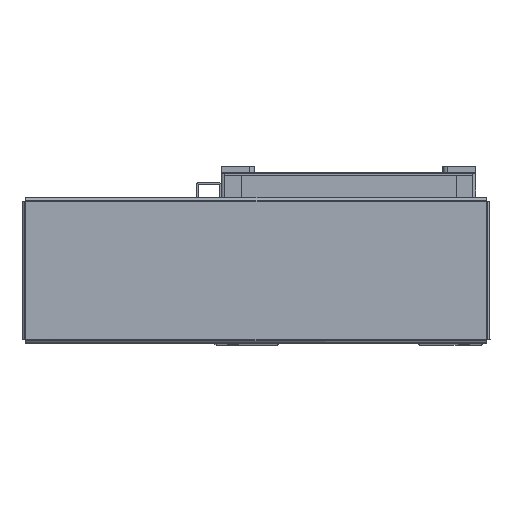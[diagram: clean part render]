
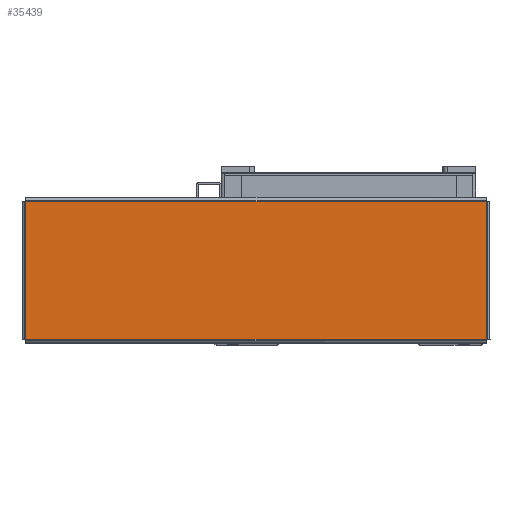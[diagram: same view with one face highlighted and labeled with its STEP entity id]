
A CAD part, top view. The second image highlights one B-rep face of the part: STEP entity #35439.
In plain terms, the highlighted planar face has unit normal (0, 0, 1) as drawn and (0, -1, 0) by its records, which use the part's own axes.
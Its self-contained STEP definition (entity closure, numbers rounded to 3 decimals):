
#514 = FACE_OUTER_BOUND ( 'NONE', #7722, .T. ) ;
#2576 = CARTESIAN_POINT ( 'NONE',  ( 139.263, -1.5, 41.763 ) ) ;
#2617 = CARTESIAN_POINT ( 'NONE',  ( -139.263, -1.5, -41.763 ) ) ;
#2666 = CARTESIAN_POINT ( 'NONE',  ( 139.263, -1.5, -41.763 ) ) ;
#2672 = CARTESIAN_POINT ( 'NONE',  ( -139.263, -1.5, 41.763 ) ) ;
#7722 = EDGE_LOOP ( 'NONE', ( #33678, #33743, #33638, #33655 ) ) ;
#13066 = LINE ( 'NONE', #14120, #13126 ) ;
#13084 = VECTOR ( 'NONE', #14262, 1000. ) ;
#13126 = VECTOR ( 'NONE', #14099, 1000. ) ;
#13127 = LINE ( 'NONE', #14252, #13084 ) ;
#13134 = VECTOR ( 'NONE', #14248, 1000. ) ;
#13141 = LINE ( 'NONE', #14245, #13134 ) ;
#13157 = LINE ( 'NONE', #14260, #13161 ) ;
#13161 = VECTOR ( 'NONE', #14265, 1000. ) ;
#14099 = DIRECTION ( 'NONE',  ( 1., 0., 0. ) ) ;
#14120 = CARTESIAN_POINT ( 'NONE',  ( -139.293, -1.5, -41.763 ) ) ;
#14245 = CARTESIAN_POINT ( 'NONE',  ( 139.293, -1.5, 41.763 ) ) ;
#14248 = DIRECTION ( 'NONE',  ( -1., 0., 0. ) ) ;
#14252 = CARTESIAN_POINT ( 'NONE',  ( 139.263, -1.5, -41.793 ) ) ;
#14260 = CARTESIAN_POINT ( 'NONE',  ( -139.263, -1.5, 41.793 ) ) ;
#14262 = DIRECTION ( 'NONE',  ( 0., 0., 1. ) ) ;
#14265 = DIRECTION ( 'NONE',  ( 0., 0., -1. ) ) ;
#22559 = AXIS2_PLACEMENT_3D ( 'NONE', #51124, #51160, #51170 ) ;
#27846 = VERTEX_POINT ( 'NONE', #2576 ) ;
#27881 = VERTEX_POINT ( 'NONE', #2617 ) ;
#27905 = VERTEX_POINT ( 'NONE', #2666 ) ;
#27957 = VERTEX_POINT ( 'NONE', #2672 ) ;
#33638 = ORIENTED_EDGE ( 'NONE', *, *, #44994, .T. ) ;
#33655 = ORIENTED_EDGE ( 'NONE', *, *, #44937, .T. ) ;
#33678 = ORIENTED_EDGE ( 'NONE', *, *, #44980, .T. ) ;
#33743 = ORIENTED_EDGE ( 'NONE', *, *, #44992, .T. ) ;
#35439 = ADVANCED_FACE ( 'NONE', ( #514 ), #51169, .F. ) ;
#44937 = EDGE_CURVE ( 'NONE', #27881, #27905, #13066, .T. ) ;
#44980 = EDGE_CURVE ( 'NONE', #27905, #27846, #13127, .T. ) ;
#44992 = EDGE_CURVE ( 'NONE', #27846, #27957, #13141, .T. ) ;
#44994 = EDGE_CURVE ( 'NONE', #27957, #27881, #13157, .T. ) ;
#51124 = CARTESIAN_POINT ( 'NONE',  ( 0., -1.5, 0. ) ) ;
#51160 = DIRECTION ( 'NONE',  ( 0., 1., 0. ) ) ;
#51169 = PLANE ( 'NONE',  #22559 ) ;
#51170 = DIRECTION ( 'NONE',  ( 0., 0., 1. ) ) ;
